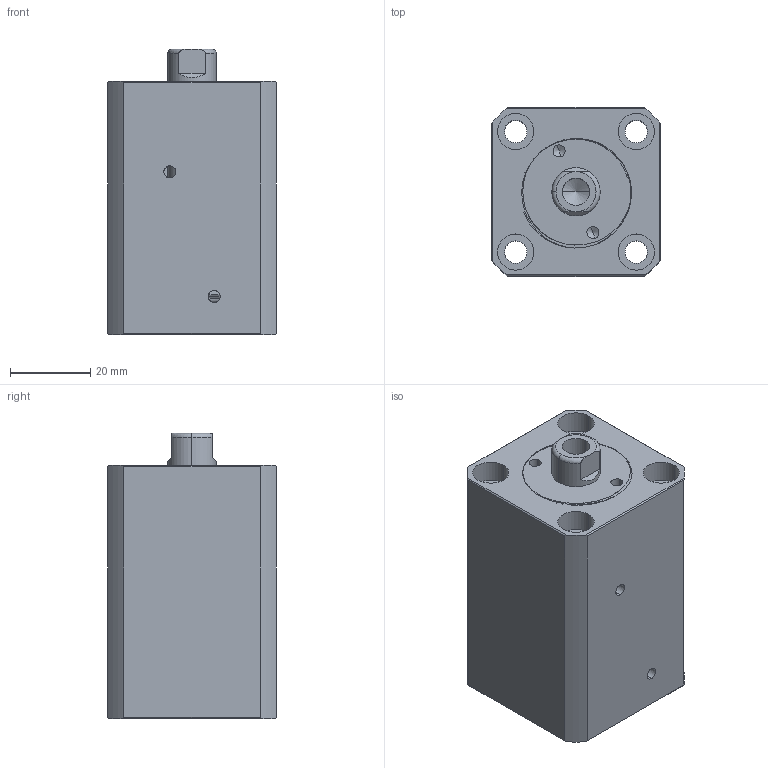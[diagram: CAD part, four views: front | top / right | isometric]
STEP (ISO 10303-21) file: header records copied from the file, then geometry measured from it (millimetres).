
FILE_DESCRIPTION (( 'STEP AP214' ), '1' );
FILE_NAME ('chtb-sdmb20x20n_asm.STEP', '2018-05-18T08:26:12', ( 'Windows' ), ( 'Microsoft' ), 'SwSTEP 2.0', 'SolidWorks 2015', '' );
FILE_SCHEMA (( 'AUTOMOTIVE_DESIGN' ));
Length unit declared in the file: millimetre
Products named in the file (4): QG_3; CHTB-SDMB20X20NHSG; CHTB-SDMB20X20NBT; chtb-sdmb20x20n_asm
Assembly tree (3 placements, depth 2):
  chtb-sdmb20x20n_asm
    CHTB-SDMB20X20NBT
    CHTB-SDMB20X20NHSG
    QG_3
Bounding box: 42 x 42 x 71 mm (x, y, z)
Volume: 95669 mm3; surface area: 31084.2 mm2
Topology: 3 solids, 3 shells, 201 faces, 535 edges, 354 vertices
Faces by surface type: cylinder 106, plane 43, torus 25, bspline 21, cone 6
Entity records: 11558 total; most frequent: CARTESIAN_POINT 6663, ORIENTED_EDGE 1058, DIRECTION 922, EDGE_CURVE 529, AXIS2_PLACEMENT_3D 388, VERTEX_POINT 354, EDGE_LOOP 239, CIRCLE 202
